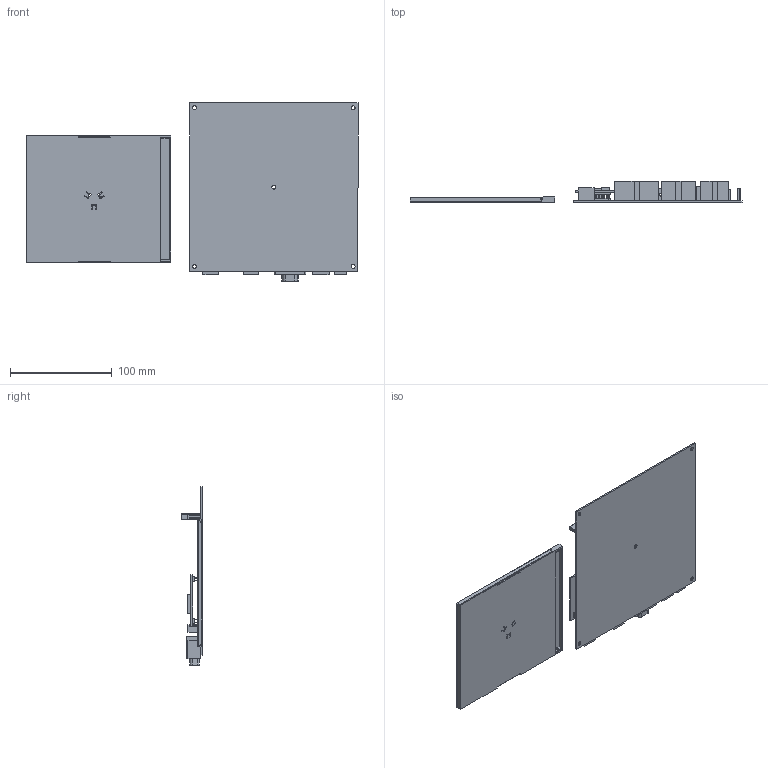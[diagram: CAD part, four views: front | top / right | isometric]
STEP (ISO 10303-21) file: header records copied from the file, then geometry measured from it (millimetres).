
FILE_DESCRIPTION (( 'STEP AP203' ), '1' );
FILE_NAME ('35-05-00-000 OUTLINE.STEP', '2016-03-07T19:45:07', ( 'a' ), ( '' ), 'SwSTEP 2.0', 'SolidWorks 2013', '' );
FILE_SCHEMA (( 'CONFIG_CONTROL_DESIGN' ));
Length unit declared in the file: inch
Products named in the file (9): 350500-651; 423537-801_Predeterminado; 350500-281; 423537-802_BOTTOM; 423537-802_COVER_CD Assembly; 423537-802; 350500-106_Drawing View; 35-05-00-000 OUTLINE; 350500-631
Assembly tree (9 placements, depth 4):
  35-05-00-000 OUTLINE
    350500-631
    350500-651  x2
    350500-106_Drawing View
      423537-801_Predeterminado
      350500-281
      423537-802
        423537-802_BOTTOM
        423537-802_COVER_CD Assembly
Bounding box: 325.57 x 20.64 x 174.69 mm (x, y, z)
Volume: 105426 mm3; surface area: 182152.3 mm2
Topology: 7 solids, 11 shells, 2962 faces, 7544 edges, 5025 vertices
Faces by surface type: plane 1708, bspline 743, cylinder 498, cone 7, torus 4, sphere 2
Entity records: 105397 total; most frequent: CARTESIAN_POINT 45657, ORIENTED_EDGE 13108, DIRECTION 9951, EDGE_CURVE 6560, VERTEX_POINT 4369, LINE 4317, VECTOR 4317, EDGE_LOOP 2967
